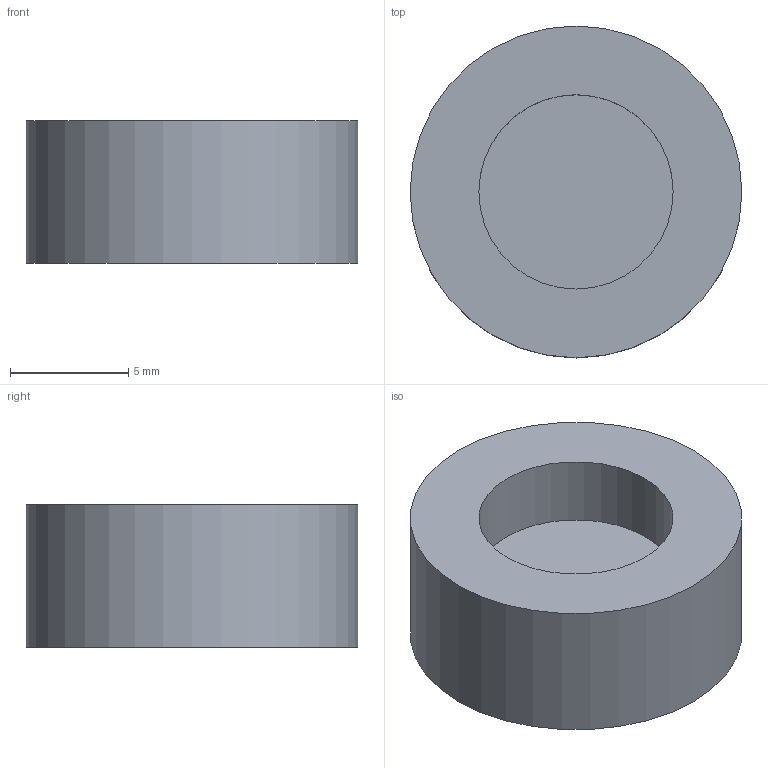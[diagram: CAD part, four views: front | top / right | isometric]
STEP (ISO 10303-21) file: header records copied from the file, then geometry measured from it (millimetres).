
FILE_DESCRIPTION(('Open CASCADE Model'),'2;1');
FILE_NAME('SM_magnet_cap','2026-11-05T16:12:41',('Author'),( 'Open CASCADE'),'Open CASCADE STEP processor 7.9','build123d', 'Unknown');
FILE_SCHEMA(('AUTOMOTIVE_DESIGN { 1 0 10303 214 1 1 1 1 }'));
Length unit declared in the file: millimetre
Products named in the file (2): SM_magnet_cap
Assembly tree (1 placements, depth 2):
  SM_magnet_cap
    SM_magnet_cap
Bounding box: 14 x 14 x 6 mm (x, y, z)
Volume: 729 mm3; surface area: 672.4 mm2
Topology: 1 solids, 1 shells, 7 faces, 9 edges, 6 vertices
Faces by surface type: plane 4, cylinder 3
Full cylindrical faces by diameter (mm): 6.2 x1, 8.2 x1, 14 x1
Entity records: 318 total; most frequent: DIRECTION 51, CARTESIAN_POINT 42, ORIENTED_EDGE 18, PCURVE 18, DEFINITIONAL_REPRESENTATION 18, AXIS2_PLACEMENT_3D 15, LINE 15, VECTOR 15
